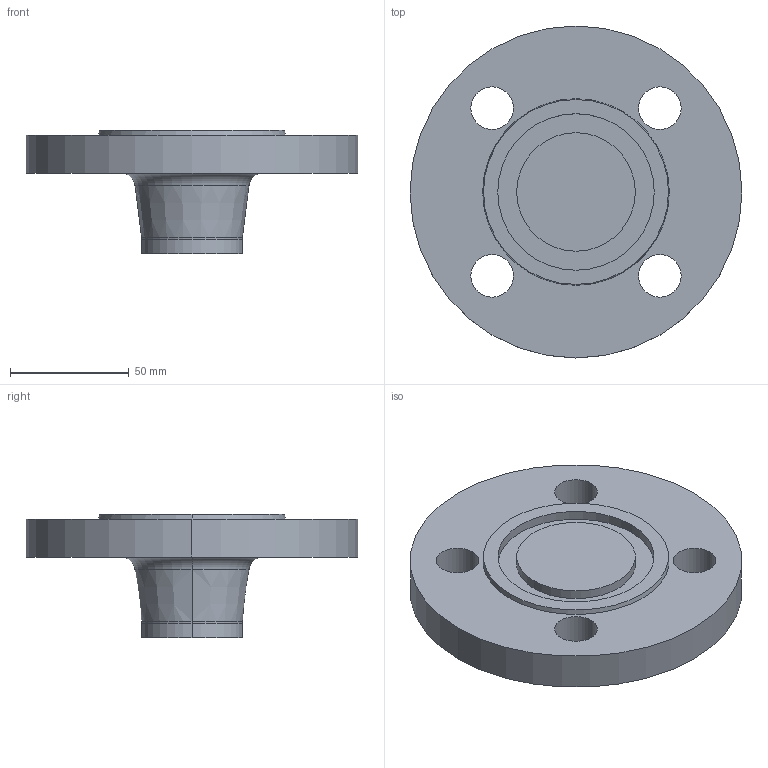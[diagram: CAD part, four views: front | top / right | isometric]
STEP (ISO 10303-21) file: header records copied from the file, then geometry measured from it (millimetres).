
FILE_DESCRIPTION (( 'STEP AP214' ), '1' );
FILE_NAME ('PN40 DN32 Type 21(ii) - Type D Face.STEP', '2018-12-29T23:43:55', ( '' ), ( '' ), 'SwSTEP 2.0', 'SolidWorks 2019', '' );
FILE_SCHEMA (( 'AUTOMOTIVE_DESIGN' ));
Length unit declared in the file: millimetre
Products named in the file (1): PN40 DN32 Type 21(ii) - Type D Face
Bounding box: 140 x 140 x 52 mm (x, y, z)
Volume: 289581.7 mm3; surface area: 45355.5 mm2
Topology: 1 solids, 1 shells, 30 faces, 66 edges, 42 vertices
Faces by surface type: cylinder 16, plane 6, torus 4, cone 4
Entity records: 898 total; most frequent: DIRECTION 174, CARTESIAN_POINT 139, ORIENTED_EDGE 132, AXIS2_PLACEMENT_3D 77, EDGE_CURVE 66, CIRCLE 46, VERTEX_POINT 42, EDGE_LOOP 42
